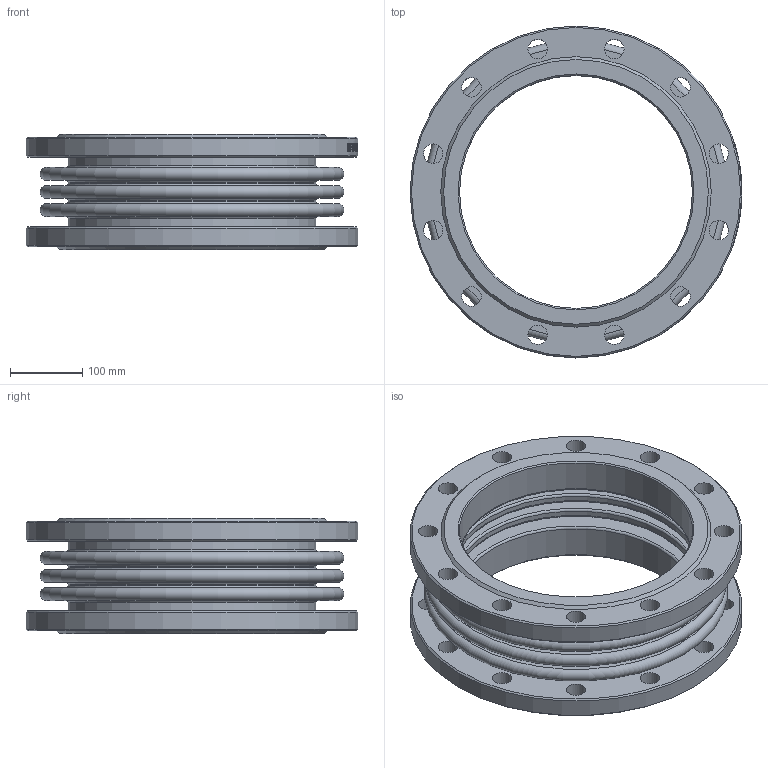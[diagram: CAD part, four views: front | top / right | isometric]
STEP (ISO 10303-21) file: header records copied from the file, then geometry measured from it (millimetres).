
FILE_DESCRIPTION(/* description */ ('D140-02121','CAx-IF Rec.Pracs.---Representation and Presentation of Product Manufacturing Information (PMI)---4.0---2014-10-13'),/* implementation_level */ '2;1');
FILE_NAME(/* name */ '',/* time_stamp */ '2026-04-14T00:16:20+03:00',/* author */ ('DN.RU'),/* organization */ ('DN.RU'),/* preprocessor_version */ 'ST-DEVELOPER v20',/* originating_system */ 'Autodesk Inventor 2025',/* authorisation */ '');
FILE_SCHEMA (('AP242_MANAGED_MODEL_BASED_3D_ENGINEERING_MIM_LF { 1 0 10303 442 1 1 4 }'));
Length unit declared in the file: millimetre
Products named in the file (1): CB-3234-F
Bounding box: 460 x 460 x 160 mm (x, y, z)
Volume: 5677247.6 mm3; surface area: 1294899 mm2
Topology: 1 solids, 1 shells, 296 faces, 763 edges, 508 vertices
Faces by surface type: plane 111, bspline 102, cylinder 57, torus 18, cone 8
Full cylindrical faces by diameter (mm): 27 x24, 323 x2, 337 x2, 343 x4, 353 x2, 460 x2
Entity records: 12860 total; most frequent: CARTESIAN_POINT 5303, ORIENTED_EDGE 1526, DIRECTION 1269, EDGE_CURVE 763, VERTEX_POINT 508, AXIS2_PLACEMENT_3D 478, EDGE_LOOP 385, STYLED_ITEM 374
